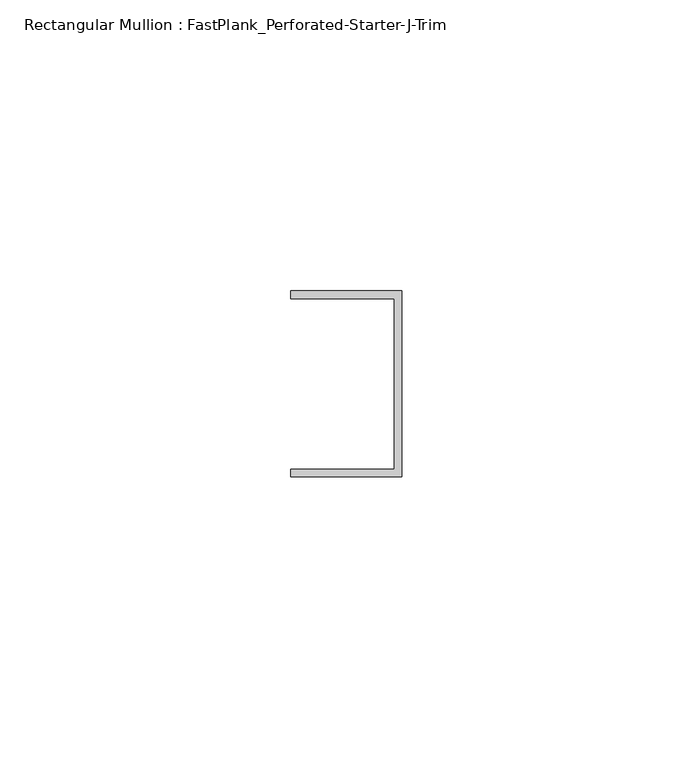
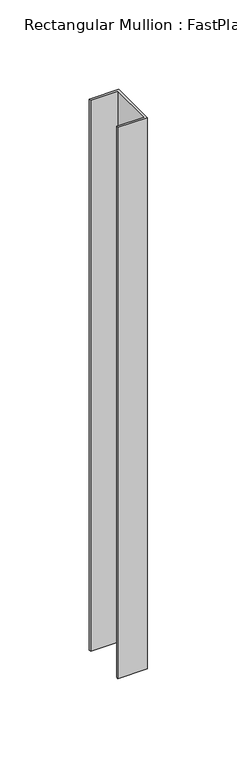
"""IFC4 building model written with IfcOpenShell, lengths in millimetres: member geometry, Rectangular Mullion : FastPlank_Perforated-Starter-J-Trim."""

from ifc_helpers import new_model, si_unit, frame, origin, place, context, project, spatial, polyline, outline, extrude, source, transform, mapped, element, save


def rectangular_mullion_fastplank_perforated_starter_j_trim_a5b82761(model_context):
    return source(origin(), model_context, "Body", "SweptSolid", [
        extrude(outline(polyline([(0.0, 10.2620691), (0.0, -21.6412691), (-19.05, -21.6412691), (-19.05, -20.3412717), (-1.3000189, -20.3412717), (-1.3000189, 8.9620717), (-19.05, 8.9620717), (-19.05, 10.2620691), (0.0, 10.2620691)])), frame((0.0, 0.0, -376.5616116), z_axis=(0.0, 0.0, 1.0), x_axis=(1.0, 0.0, 0.0)), (0.0, 0.0, 1.0), 376.5616116),
    ])


if __name__ == "__main__":
    model = new_model("IFC4")
    model_context = context("Model", 3, world=origin())
    ifc_project = project(units=[si_unit("LENGTHUNIT", "METRE", prefix="MILLI")], contexts=[model_context])
    site = spatial("IfcSite", under=ifc_project)
    building = spatial("IfcBuilding", under=site)
    placement = place(None, origin())
    rectangular_mullion_fastplank_perforated_starter_j_trim_shape = rectangular_mullion_fastplank_perforated_starter_j_trim_a5b82761(model_context)
    element("IfcMember", 1, ObjectType="Rectangular Mullion : FastPlank_Perforated-Starter-J-Trim", at=placement, inside=building, context=model_context, shape_type="MappedRepresentation", body=[
        mapped(rectangular_mullion_fastplank_perforated_starter_j_trim_shape, transform((0.0, 0.0, 0.0), x_axis=(1.0, 0.0, 0.0), y_axis=(0.0, 1.0, 0.0), z_axis=(0.0, 0.0, 1.0))),
    ])
    save(model, "model.ifc")
